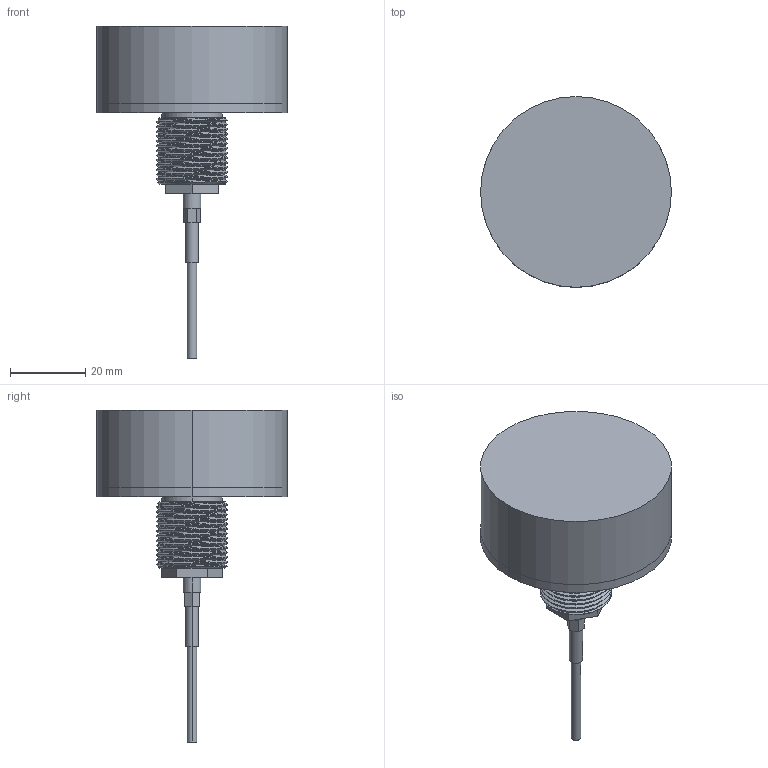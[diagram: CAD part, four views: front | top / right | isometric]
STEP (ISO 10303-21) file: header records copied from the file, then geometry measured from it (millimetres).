
FILE_DESCRIPTION (( 'STEP AP203' ), '1' );
FILE_NAME ('51U.STEP', '2010-03-05T19:01:14', ( 'tom edwards' ), ( 'Tom J. Edwards' ), 'SwSTEP 2.0', 'SolidWorks 2008', '' );
FILE_SCHEMA (( 'CONFIG_CONTROL_DESIGN' ));
Length unit declared in the file: inch
Products named in the file (1): 51U
Bounding box: 50.83 x 50.83 x 88.39 mm (x, y, z)
Volume: 52558.5 mm3; surface area: 10091.4 mm2
Topology: 1 solids, 1 shells, 75 faces, 183 edges, 117 vertices
Faces by surface type: cylinder 39, plane 27, cone 6, bspline 3
Entity records: 6977 total; most frequent: CARTESIAN_POINT 5305, ORIENTED_EDGE 366, DIRECTION 296, EDGE_CURVE 183, VERTEX_POINT 117, AXIS2_PLACEMENT_3D 108, EDGE_LOOP 82, LINE 80
